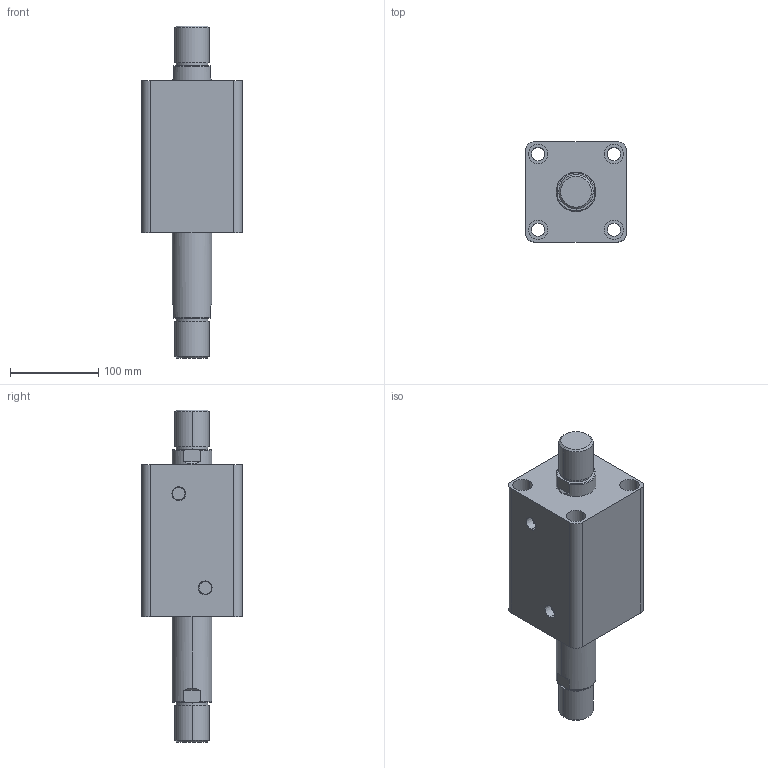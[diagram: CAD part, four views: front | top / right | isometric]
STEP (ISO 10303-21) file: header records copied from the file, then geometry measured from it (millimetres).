
FILE_DESCRIPTION (( 'STEP AP203' ), '1' );
FILE_NAME ('HTB-SW80-80W.STEP', '2019-10-07T10:26:15', ( '微软用户' ), ( '微软中国' ), 'SwSTEP 2.0', 'SolidWorks 2012', '' );
FILE_SCHEMA (( 'CONFIG_CONTROL_DESIGN' ));
Length unit declared in the file: millimetre
Products named in the file (3): HTB-SW80-80W; HTB-SW80-80W活塞杆; HTB-SW80-80掛极
Assembly tree (2 placements, depth 2):
  HTB-SW80-80W
    HTB-SW80-80掛极
    HTB-SW80-80W活塞杆
Bounding box: 114 x 114 x 377 mm (x, y, z)
Volume: 2093484.3 mm3; surface area: 242282.8 mm2
Topology: 2 solids, 2 shells, 108 faces, 240 edges, 156 vertices
Faces by surface type: cylinder 52, plane 36, torus 12, cone 8
Entity records: 3449 total; most frequent: CARTESIAN_POINT 629, DIRECTION 586, ORIENTED_EDGE 480, AXIS2_PLACEMENT_3D 249, EDGE_CURVE 240, VERTEX_POINT 156, EDGE_LOOP 138, CIRCLE 136
